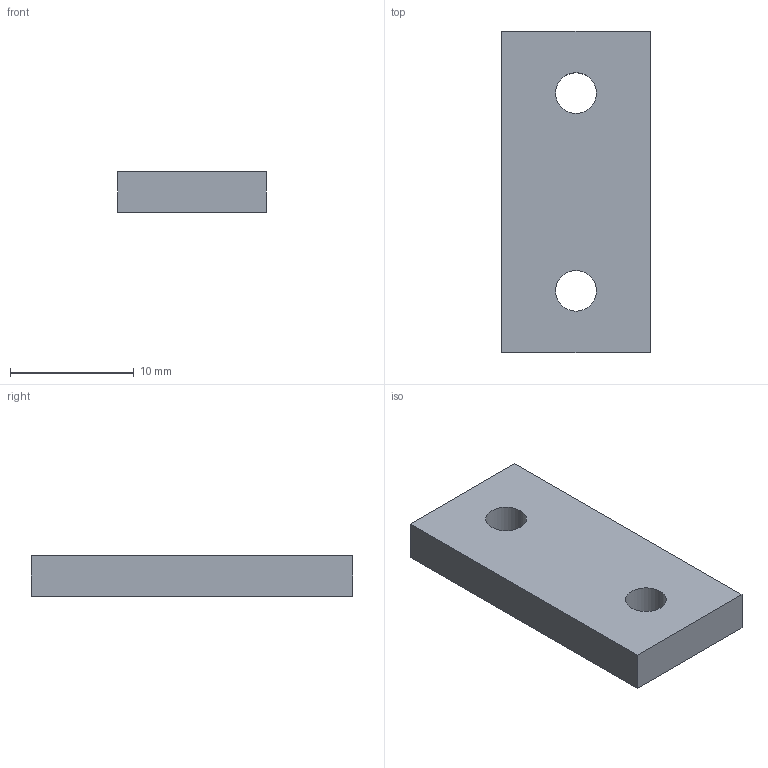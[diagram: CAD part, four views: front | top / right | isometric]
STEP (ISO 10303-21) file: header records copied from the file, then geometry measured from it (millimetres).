
FILE_DESCRIPTION(('Open CASCADE Model'),'2;1');
FILE_NAME('Open CASCADE Shape Model','2026-11-07T14:08:04',('Author'),( 'Open CASCADE'),'Open CASCADE STEP processor 7.9','Open CASCADE 7.9' ,'Unknown');
FILE_SCHEMA(('AUTOMOTIVE_DESIGN { 1 0 10303 214 1 1 1 1 }'));
Length unit declared in the file: millimetre
Products named in the file (1): Open CASCADE STEP translator 7.9 1
Bounding box: 12 x 26 x 3.3 mm (x, y, z)
Volume: 973.2 mm3; surface area: 909 mm2
Topology: 1 solids, 1 shells, 8 faces, 18 edges, 12 vertices
Faces by surface type: plane 6, cylinder 2
Full cylindrical faces by diameter (mm): 3.3 x2
Entity records: 490 total; most frequent: CARTESIAN_POINT 99, DIRECTION 72, LINE 46, VECTOR 46, ORIENTED_EDGE 36, PCURVE 36, DEFINITIONAL_REPRESENTATION 36, EDGE_CURVE 18
